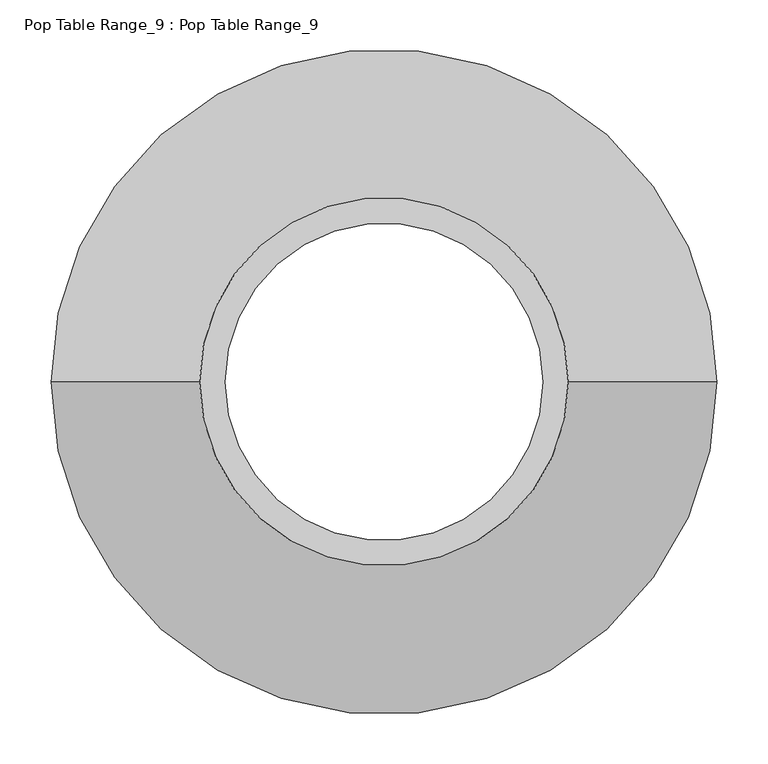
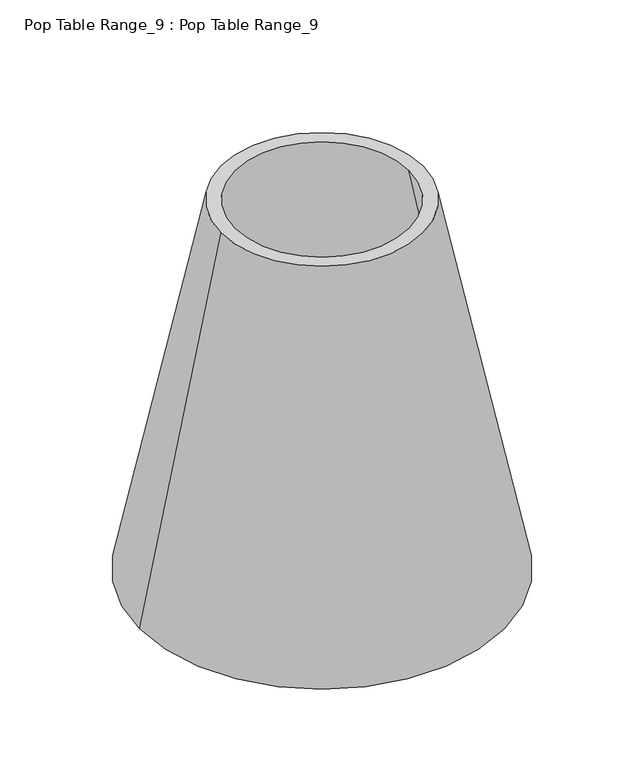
"""IFC4 building model written with IfcOpenShell, lengths in millimetres: proxy geometry, Pop Table Range_9 : Pop Table Range_9."""

from ifc_helpers import new_model, si_unit, frame, origin, place, context, project, spatial, polyline, circle_curve, source, transform, mapped, element, save
from ifc_brep_helpers import plane_surface, revolved_surface, advanced_brep


def pop_table_range_9_pop_table_range_9_ceaf5ab2(model_context):
    return source(origin(), model_context, "Body", "AdvancedBrep", [
        advanced_brep(
        [(303.300242, 0.0, 0.0), (-296.7193527, 0.0, 0.0), (-151.5836432, 0.0, 695.0), (158.1645324, 0.0, 695.0), (183.2260046, 0.0, 695.0), (-176.6451154, 0.0, 695.0), (-321.6902239, 0.0, 0.0), (328.2711132, 0.0, 0.0)],
        [
            (0, 1, circle_curve(frame((3.2904446, 0.0, 0.0), z_axis=(0.0, 0.0, -1.0), x_axis=(-1.0, 0.0, 0.0)), 300.0097974)),
            (1, 2),
            (2, 3, circle_curve(frame((3.2904446, 0.0, 695.0), z_axis=(0.0, 0.0, 1.0), x_axis=(-1.0, 0.0, 0.0)), 154.8740878)),
            (3, 0),
            (4, 5, circle_curve(frame((3.2904446, 0.0, 695.0), z_axis=(0.0, 0.0, -1.0), x_axis=(-1.0, 0.0, 0.0)), 179.93556)),
            (5, 6),
            (6, 7, circle_curve(frame((3.2904446, 0.0, 0.0), z_axis=(0.0, 0.0, 1.0), x_axis=(-1.0, 0.0, 0.0)), 324.9806685)),
            (7, 4),
            (1, 0, circle_curve(frame((3.2904446, 0.0, 0.0), z_axis=(0.0, 0.0, -1.0), x_axis=(1.0, 0.0, 0.0)), 300.0097974)),
            (3, 2, circle_curve(frame((3.2904446, 0.0, 695.0), z_axis=(0.0, 0.0, 1.0), x_axis=(1.0, 0.0, 0.0)), 154.8740878)),
            (6, 7, circle_curve(frame((3.2904446, 0.0, 0.0), z_axis=(0.0, 0.0, -1.0), x_axis=(1.0, 0.0, 0.0)), 324.9806685)),
            (5, 4, circle_curve(frame((3.2904446, 0.0, 695.0), z_axis=(0.0, 0.0, -1.0), x_axis=(1.0, 0.0, 0.0)), 179.93556)),
        ],
        [
            revolved_surface(polyline([(-151.5836432, 0.0, 695.0), (-296.7193527, 0.0, 0.0)]), (3.2904446, 0.0, 0.0), (0.0, 0.0, 1.0)),
            revolved_surface(polyline([(-321.6902239, 0.0, 0.0), (-176.6451154, 0.0, 695.0)]), (3.2904446, 0.0, 0.0), (0.0, 0.0, 1.0)),
            revolved_surface(polyline([(158.1645324, 0.0, 695.0), (303.300242, 0.0, 0.0)]), (3.2904446, 0.0, 0.0), (0.0, 0.0, 1.0)),
            plane_surface(frame((3.2904446, 0.0, 0.0), z_axis=(0.0, 0.0, -1.0), x_axis=(1.0, 0.0, 0.0))),
            revolved_surface(polyline([(328.2711132, 0.0, 0.0), (183.2260046, 0.0, 695.0)]), (3.2904446, 0.0, 0.0), (0.0, 0.0, 1.0)),
            plane_surface(frame((3.2904446, 0.0, 695.0), z_axis=(0.0, 0.0, 1.0), x_axis=(1.0, 0.0, 0.0))),
        ],
        [
            (0, [[1, 2, 3, 4]]),
            (1, [[5, 6, 7, 8]]),
            (2, [[9, -4, 10, -2]]),
            (3, [[11, -7], [-9, -1]]),
            (4, [[12, -8, -11, -6]]),
            (5, [[-12, -5], [-10, -3]]),
        ],
    ),
    ])


if __name__ == "__main__":
    model = new_model("IFC4")
    model_context = context("Model", 3, world=origin())
    ifc_project = project(units=[si_unit("LENGTHUNIT", "METRE", prefix="MILLI")], contexts=[model_context])
    site = spatial("IfcSite", under=ifc_project)
    building = spatial("IfcBuilding", under=site)
    placement = place(None, origin())
    pop_table_range_9_pop_table_range_9_shape = pop_table_range_9_pop_table_range_9_ceaf5ab2(model_context)
    element("IfcBuildingElementProxy", 1, Name="Pop Table Range_9 : Pop Table Range_9", ObjectType="Pop Table Range_9 : Pop Table Range_9", at=placement, inside=building, context=model_context, shape_type="MappedRepresentation", body=[
        mapped(pop_table_range_9_pop_table_range_9_shape, transform((0.0, 0.0, 0.0), x_axis=(1.0, 0.0, 0.0), y_axis=(0.0, 1.0, 0.0), z_axis=(0.0, 0.0, 1.0))),
    ])
    save(model, "model.ifc")
